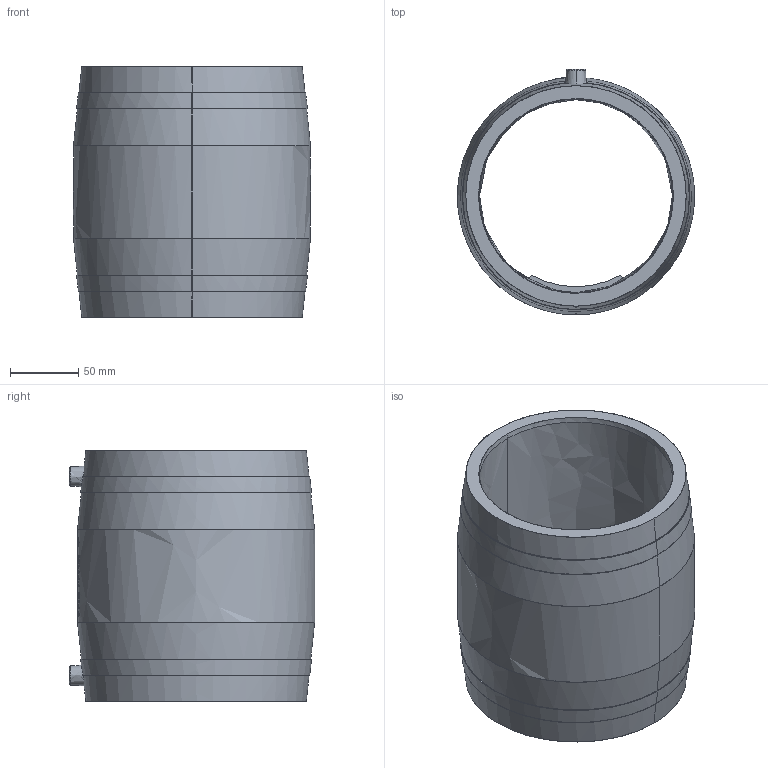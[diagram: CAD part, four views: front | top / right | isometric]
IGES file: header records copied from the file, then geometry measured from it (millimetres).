
Start section:  PTC IGES file: mb_d140_01.igs
Global section: file name: mb_d140_01.igs; native system: Pro/ENGINEER by Parametric Technology Corporation; preprocessor: 2011490; author: mtunjic; organization: Unknown; date: 20130805.164150; units: millimetre
Bounding box: 174 x 180 x 184 mm (x, y, z)
Surface area: 192511.7 mm2 (no closed solid volume)
Topology: 0 solids, 0 shells, 170 faces, 874 edges, 874 vertices
Faces by surface type: bspline 170
